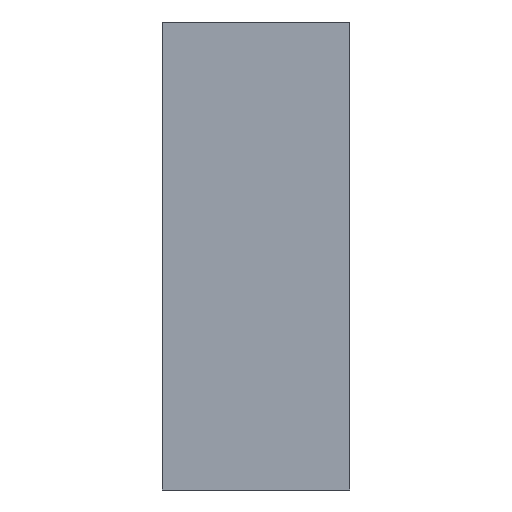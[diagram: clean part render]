
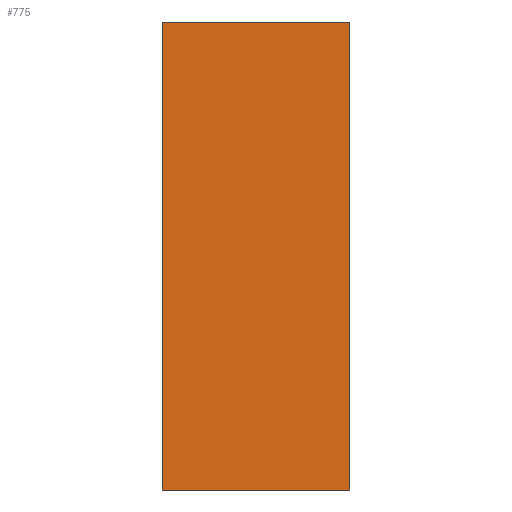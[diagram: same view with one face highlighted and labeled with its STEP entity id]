
A CAD part, front view. The second image highlights one B-rep face of the part: STEP entity #775.
In plain terms, the highlighted planar face has unit normal (0, -1, 0).
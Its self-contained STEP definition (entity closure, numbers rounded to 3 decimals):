
#30=LINE('',#1107,#121);
#59=LINE('',#1181,#150);
#86=LINE('',#1255,#177);
#87=LINE('',#1256,#178);
#121=VECTOR('',#896,1000.);
#150=VECTOR('',#941,1000.);
#177=VECTOR('',#990,1000.);
#178=VECTOR('',#991,1000.);
#288=ORIENTED_EDGE('',*,*,#473,.F.);
#289=ORIENTED_EDGE('',*,*,#510,.F.);
#290=ORIENTED_EDGE('',*,*,#437,.F.);
#291=ORIENTED_EDGE('',*,*,#511,.T.);
#437=EDGE_CURVE('',#548,#549,#30,.T.);
#473=EDGE_CURVE('',#584,#585,#59,.T.);
#510=EDGE_CURVE('',#549,#584,#86,.T.);
#511=EDGE_CURVE('',#548,#585,#87,.T.);
#548=VERTEX_POINT('',#1108);
#549=VERTEX_POINT('',#1109);
#584=VERTEX_POINT('',#1180);
#585=VERTEX_POINT('',#1182);
#651=EDGE_LOOP('',(#288,#289,#290,#291));
#702=FACE_BOUND('',#651,.T.);
#745=PLANE('',#848);
#775=ADVANCED_FACE('',(#702),#745,.T.);
#848=AXIS2_PLACEMENT_3D('',#1254,#988,#989);
#896=DIRECTION('',(-1.,0.,0.));
#941=DIRECTION('',(1.,0.,0.));
#988=DIRECTION('',(0.,-1.,0.));
#989=DIRECTION('',(1.,0.,0.));
#990=DIRECTION('',(0.,0.,1.));
#991=DIRECTION('',(0.,0.,1.));
#1107=CARTESIAN_POINT('',(-20.,-20.,-50.));
#1108=CARTESIAN_POINT('',(20.,-20.,-50.));
#1109=CARTESIAN_POINT('',(-20.,-20.,-50.));
#1180=CARTESIAN_POINT('',(-20.,-20.,50.));
#1181=CARTESIAN_POINT('',(-20.,-20.,50.));
#1182=CARTESIAN_POINT('',(20.,-20.,50.));
#1254=CARTESIAN_POINT('',(-20.,-20.,0.));
#1255=CARTESIAN_POINT('',(-20.,-20.,-150.));
#1256=CARTESIAN_POINT('',(20.,-20.,-150.));
